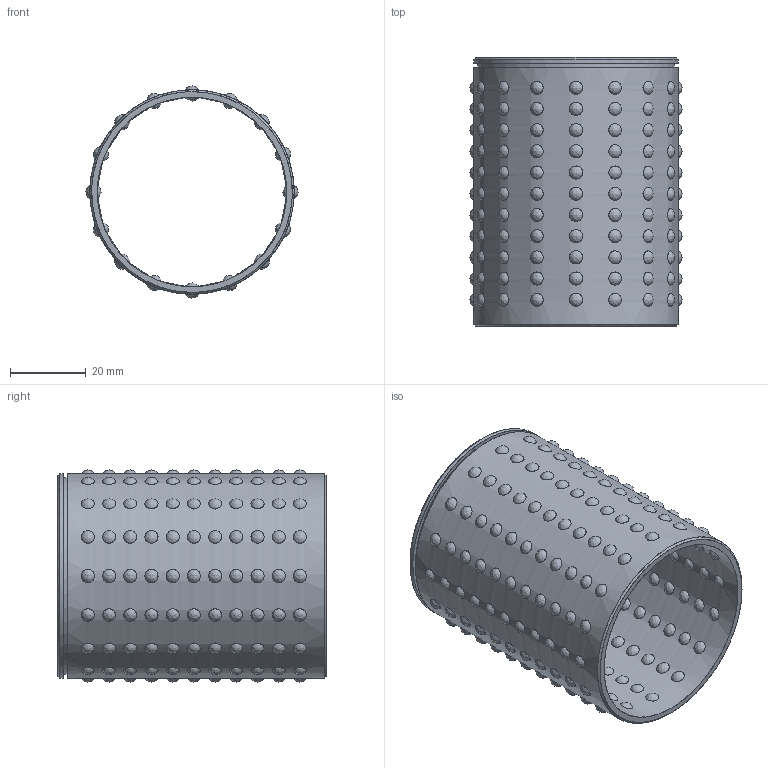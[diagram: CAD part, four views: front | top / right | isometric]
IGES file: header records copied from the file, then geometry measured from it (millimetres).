
Start section: Missler Software BP 521, 31674 Labege Cedex, France Tel   : +33 (0)5 61 00 03 00 Fax   : +33 (0)5 61 00 03 03 Email : sup.topsolid@topsolid.com
Global section: file name: C:\Documents and Settings\EXPER\Desktop\Cuma\24 03 2009\D60\D60_48X71.igs; native system: TopSolid v605250 Missler Software; preprocessor: IGES preprocessor v100000; date: 030102.033630; units: millimetre
Bounding box: 56 x 71 x 56 mm (x, y, z)
Surface area: 34076.4 mm2 (no closed solid volume)
Topology: 0 solids, 0 shells, 362 faces, 13880 edges, 13346 vertices
Faces by surface type: bspline 362
